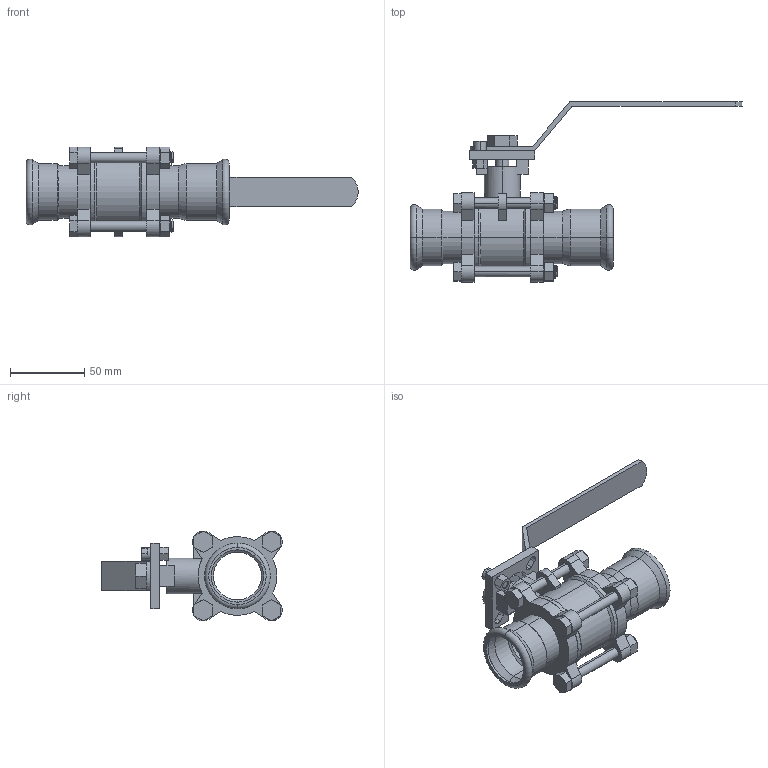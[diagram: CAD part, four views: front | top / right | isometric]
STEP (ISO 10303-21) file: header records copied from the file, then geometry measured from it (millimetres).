
FILE_DESCRIPTION (( 'STEP AP214' ), '1' );
FILE_NAME ('V3500PM.STEP', '2025-08-17T06:44:36', ( '' ), ( '' ), 'SwSTEP 2.0', 'SolidWorks 2020', '' );
FILE_SCHEMA (( 'AUTOMOTIVE_DESIGN' ));
Length unit declared in the file: millimetre
Products named in the file (1): V3500PM
Bounding box: 223.85 x 121.72 x 60.68 mm (x, y, z)
Volume: 141699.2 mm3; surface area: 82580.4 mm2
Topology: 3 solids, 3 shells, 552 faces, 1486 edges, 953 vertices
Faces by surface type: cylinder 256, plane 222, bspline 46, cone 20, torus 8
Entity records: 38190 total; most frequent: CARTESIAN_POINT 19121, ORIENTED_EDGE 2972, DIRECTION 2477, EDGE_CURVE 1486, VERTEX_POINT 953, AXIS2_PLACEMENT_3D 878, LINE 721, VECTOR 721
